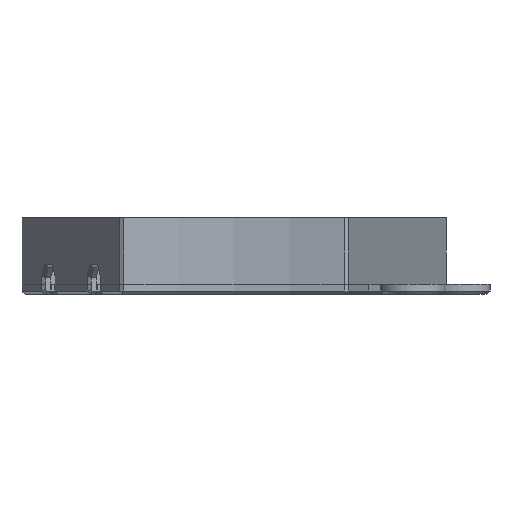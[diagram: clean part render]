
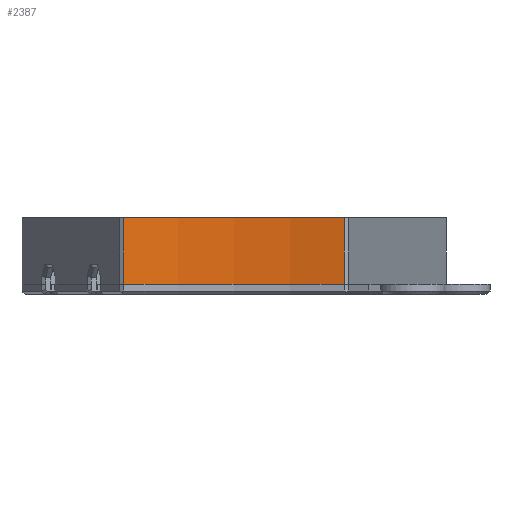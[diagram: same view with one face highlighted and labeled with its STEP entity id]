
A CAD part, front view. The second image highlights one B-rep face of the part: STEP entity #2387.
In plain terms, the highlighted cylindrical face has radius 52.6 mm (diameter 105.2 mm), a partial arc.
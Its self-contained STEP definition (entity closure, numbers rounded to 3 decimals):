
#408 = PLANE('',#409);
#409 = AXIS2_PLACEMENT_3D('',#410,#411,#412);
#410 = CARTESIAN_POINT('',(-13.717,51.194,1.2));
#411 = DIRECTION('',(0.502,0.865,0.));
#412 = DIRECTION('',(0.,0.,1.));
#436 = PLANE('',#437);
#437 = AXIS2_PLACEMENT_3D('',#438,#439,#440);
#438 = CARTESIAN_POINT('',(13.614,50.808,9.2));
#439 = DIRECTION('',(0.,0.,-1.));
#440 = DIRECTION('',(-1.,0.,0.));
#1036 = VERTEX_POINT('',#1037);
#1037 = CARTESIAN_POINT('',(13.227,50.91,9.2));
#1051 = PLANE('',#1052);
#1052 = AXIS2_PLACEMENT_3D('',#1053,#1054,#1055);
#1053 = CARTESIAN_POINT('',(13.717,51.194,1.2));
#1054 = DIRECTION('',(0.502,-0.865,0.));
#1055 = DIRECTION('',(0.,0.,1.));
#1063 = EDGE_CURVE('',#1036,#1064,#1066,.T.);
#1064 = VERTEX_POINT('',#1065);
#1065 = CARTESIAN_POINT('',(-13.227,50.91,9.2));
#1066 = SURFACE_CURVE('',#1067,(#1072,#1083),.PCURVE_S1.);
#1067 = CIRCLE('',#1068,52.6);
#1068 = AXIS2_PLACEMENT_3D('',#1069,#1070,#1071);
#1069 = CARTESIAN_POINT('',(0.,0.,9.2));
#1070 = DIRECTION('',(0.,0.,1.));
#1071 = DIRECTION('',(1.,0.,0.));
#1072 = PCURVE('',#436,#1073);
#1073 = DEFINITIONAL_REPRESENTATION('',(#1074),#1082);
#1074 = ( BOUNDED_CURVE() B_SPLINE_CURVE(2,(#1075,#1076,#1077,#1078,
#1079,#1080,#1081),.UNSPECIFIED.,.T.,.F.) B_SPLINE_CURVE_WITH_KNOTS((1,2
    ,2,2,2,1),(-2.094,0.,2.094,4.189,
6.283,8.378),.UNSPECIFIED.) CURVE() 
GEOMETRIC_REPRESENTATION_ITEM() RATIONAL_B_SPLINE_CURVE((1.,0.5,1.,0.5,
1.,0.5,1.)) REPRESENTATION_ITEM('') );
#1075 = CARTESIAN_POINT('',(-38.986,-50.808));
#1076 = CARTESIAN_POINT('',(-38.986,40.298));
#1077 = CARTESIAN_POINT('',(39.914,-5.255));
#1078 = CARTESIAN_POINT('',(118.814,-50.808));
#1079 = CARTESIAN_POINT('',(39.914,-96.361));
#1080 = CARTESIAN_POINT('',(-38.986,-141.914));
#1081 = CARTESIAN_POINT('',(-38.986,-50.808));
#1082 = ( GEOMETRIC_REPRESENTATION_CONTEXT(2) 
PARAMETRIC_REPRESENTATION_CONTEXT() REPRESENTATION_CONTEXT('2D SPACE',''
  ) );
#1083 = PCURVE('',#1084,#1089);
#1084 = CYLINDRICAL_SURFACE('',#1085,52.6);
#1085 = AXIS2_PLACEMENT_3D('',#1086,#1087,#1088);
#1086 = CARTESIAN_POINT('',(0.,0.,1.2));
#1087 = DIRECTION('',(0.,0.,-1.));
#1088 = DIRECTION('',(1.,0.,0.));
#1089 = DEFINITIONAL_REPRESENTATION('',(#1090),#1094);
#1090 = LINE('',#1091,#1092);
#1091 = CARTESIAN_POINT('',(0.,-8.));
#1092 = VECTOR('',#1093,1.);
#1093 = DIRECTION('',(-1.,0.));
#1094 = ( GEOMETRIC_REPRESENTATION_CONTEXT(2) 
PARAMETRIC_REPRESENTATION_CONTEXT() REPRESENTATION_CONTEXT('2D SPACE',''
  ) );
#1175 = VERTEX_POINT('',#1176);
#1176 = CARTESIAN_POINT('',(-13.227,50.91,1.2));
#1202 = EDGE_CURVE('',#1175,#1064,#1203,.T.);
#1203 = SURFACE_CURVE('',#1204,(#1208,#1215),.PCURVE_S1.);
#1204 = LINE('',#1205,#1206);
#1205 = CARTESIAN_POINT('',(-13.227,50.91,1.2));
#1206 = VECTOR('',#1207,1.);
#1207 = DIRECTION('',(0.,0.,1.));
#1208 = PCURVE('',#408,#1209);
#1209 = DEFINITIONAL_REPRESENTATION('',(#1210),#1214);
#1210 = LINE('',#1211,#1212);
#1211 = CARTESIAN_POINT('',(0.,0.567));
#1212 = VECTOR('',#1213,1.);
#1213 = DIRECTION('',(1.,0.));
#1214 = ( GEOMETRIC_REPRESENTATION_CONTEXT(2) 
PARAMETRIC_REPRESENTATION_CONTEXT() REPRESENTATION_CONTEXT('2D SPACE',''
  ) );
#1215 = PCURVE('',#1084,#1216);
#1216 = DEFINITIONAL_REPRESENTATION('',(#1217),#1221);
#1217 = LINE('',#1218,#1219);
#1218 = CARTESIAN_POINT('',(-1.825,0.));
#1219 = VECTOR('',#1220,1.);
#1220 = DIRECTION('',(0.,-1.));
#1221 = ( GEOMETRIC_REPRESENTATION_CONTEXT(2) 
PARAMETRIC_REPRESENTATION_CONTEXT() REPRESENTATION_CONTEXT('2D SPACE',''
  ) );
#2387 = ADVANCED_FACE('',(#2388),#1084,.F.);
#2388 = FACE_BOUND('',#2389,.T.);
#2389 = EDGE_LOOP('',(#2390,#2419,#2440,#2441));
#2390 = ORIENTED_EDGE('',*,*,#2391,.F.);
#2391 = EDGE_CURVE('',#2392,#1175,#2394,.T.);
#2392 = VERTEX_POINT('',#2393);
#2393 = CARTESIAN_POINT('',(13.227,50.91,1.2));
#2394 = SURFACE_CURVE('',#2395,(#2400,#2407),.PCURVE_S1.);
#2395 = CIRCLE('',#2396,52.6);
#2396 = AXIS2_PLACEMENT_3D('',#2397,#2398,#2399);
#2397 = CARTESIAN_POINT('',(0.,0.,1.2));
#2398 = DIRECTION('',(0.,0.,1.));
#2399 = DIRECTION('',(1.,0.,0.));
#2400 = PCURVE('',#1084,#2401);
#2401 = DEFINITIONAL_REPRESENTATION('',(#2402),#2406);
#2402 = LINE('',#2403,#2404);
#2403 = CARTESIAN_POINT('',(0.,0.));
#2404 = VECTOR('',#2405,1.);
#2405 = DIRECTION('',(-1.,0.));
#2406 = ( GEOMETRIC_REPRESENTATION_CONTEXT(2) 
PARAMETRIC_REPRESENTATION_CONTEXT() REPRESENTATION_CONTEXT('2D SPACE',''
  ) );
#2407 = PCURVE('',#2408,#2413);
#2408 = CYLINDRICAL_SURFACE('',#2409,52.6);
#2409 = AXIS2_PLACEMENT_3D('',#2410,#2411,#2412);
#2410 = CARTESIAN_POINT('',(0.,0.,0.));
#2411 = DIRECTION('',(0.,0.,-1.));
#2412 = DIRECTION('',(1.,0.,0.));
#2413 = DEFINITIONAL_REPRESENTATION('',(#2414),#2418);
#2414 = LINE('',#2415,#2416);
#2415 = CARTESIAN_POINT('',(0.,-1.2));
#2416 = VECTOR('',#2417,1.);
#2417 = DIRECTION('',(-1.,0.));
#2418 = ( GEOMETRIC_REPRESENTATION_CONTEXT(2) 
PARAMETRIC_REPRESENTATION_CONTEXT() REPRESENTATION_CONTEXT('2D SPACE',''
  ) );
#2419 = ORIENTED_EDGE('',*,*,#2420,.T.);
#2420 = EDGE_CURVE('',#2392,#1036,#2421,.T.);
#2421 = SURFACE_CURVE('',#2422,(#2426,#2433),.PCURVE_S1.);
#2422 = LINE('',#2423,#2424);
#2423 = CARTESIAN_POINT('',(13.227,50.91,1.2));
#2424 = VECTOR('',#2425,1.);
#2425 = DIRECTION('',(0.,0.,1.));
#2426 = PCURVE('',#1084,#2427);
#2427 = DEFINITIONAL_REPRESENTATION('',(#2428),#2432);
#2428 = LINE('',#2429,#2430);
#2429 = CARTESIAN_POINT('',(-1.317,0.));
#2430 = VECTOR('',#2431,1.);
#2431 = DIRECTION('',(0.,-1.));
#2432 = ( GEOMETRIC_REPRESENTATION_CONTEXT(2) 
PARAMETRIC_REPRESENTATION_CONTEXT() REPRESENTATION_CONTEXT('2D SPACE',''
  ) );
#2433 = PCURVE('',#1051,#2434);
#2434 = DEFINITIONAL_REPRESENTATION('',(#2435),#2439);
#2435 = LINE('',#2436,#2437);
#2436 = CARTESIAN_POINT('',(0.,0.567));
#2437 = VECTOR('',#2438,1.);
#2438 = DIRECTION('',(1.,0.));
#2439 = ( GEOMETRIC_REPRESENTATION_CONTEXT(2) 
PARAMETRIC_REPRESENTATION_CONTEXT() REPRESENTATION_CONTEXT('2D SPACE',''
  ) );
#2440 = ORIENTED_EDGE('',*,*,#1063,.T.);
#2441 = ORIENTED_EDGE('',*,*,#1202,.F.);
